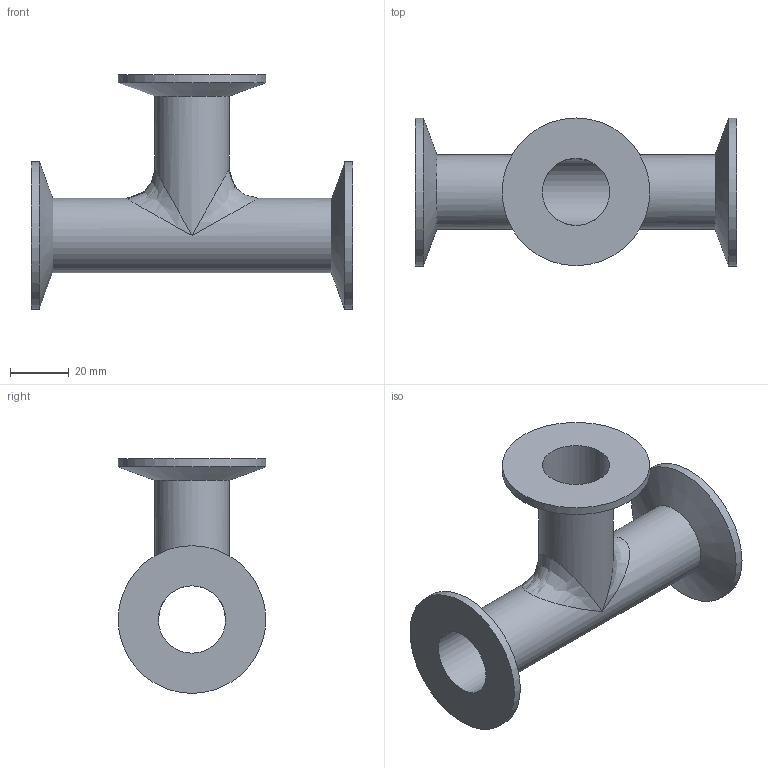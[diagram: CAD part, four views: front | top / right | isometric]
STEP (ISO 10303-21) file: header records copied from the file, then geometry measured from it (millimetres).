
FILE_DESCRIPTION(/* description */ ('ＯＳＵ'),/* implementation_level */ '2;1');
FILE_NAME(/* name */ 'C:\Users\Fujimoto-s\OneDrive\Inventor\WorkSpace\\X2\305D306E4ED6\X0\\ホームページ用\\X2\30C030A630F330ED30FC30C97D206750\X0\\サニタリー継手\TEE-3C-1.0S-316L\TEE-3C-1.0S-316L.stp',/* time_stamp */ '2024-08-09T13:18:17+09:00',/* author */ ('Fujimoto-s'),/* organization */ (''),/* preprocessor_version */ 'ST-DEVELOPER v15.2',/* originating_system */ 'Autodesk Inventor 2014',/* authorisation */ '');
FILE_SCHEMA (('AUTOMOTIVE_DESIGN { 1 0 10303 214 3 1 1 }'));
Length unit declared in the file: millimetre
Products named in the file (1): TEE-3C-1.0S-316L
Bounding box: 110 x 50.5 x 80.25 mm (x, y, z)
Volume: 35480.7 mm3; surface area: 31727 mm2
Topology: 1 solids, 1 shells, 17 faces, 40 edges, 16 vertices
Faces by surface type: cylinder 7, bspline 4, cone 3, plane 3
Full cylindrical faces by diameter (mm): 23 x2, 25.4 x2, 50.5 x3
Entity records: 686 total; most frequent: CARTESIAN_POINT 362, DIRECTION 68, ORIENTED_EDGE 40, AXIS2_PLACEMENT_3D 34, EDGE_LOOP 32, EDGE_CURVE 20, ADVANCED_FACE 17, FACE_BOUND 16
